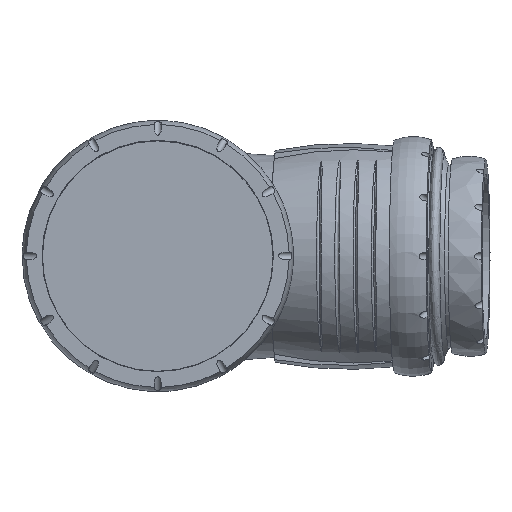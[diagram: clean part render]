
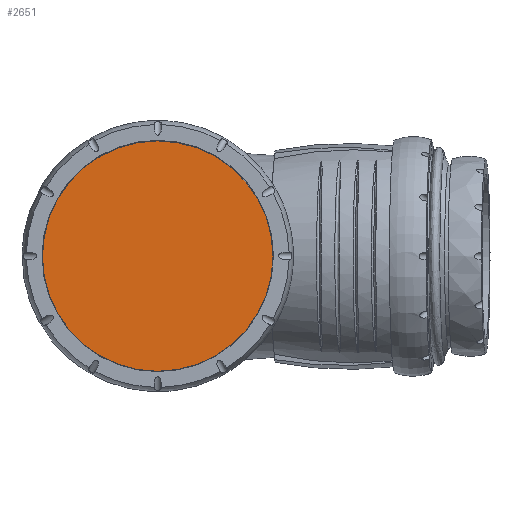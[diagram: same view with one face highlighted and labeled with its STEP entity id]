
A CAD part, top view. The second image highlights one B-rep face of the part: STEP entity #2651.
In plain terms, the highlighted planar face has unit normal (0, 0, 1).
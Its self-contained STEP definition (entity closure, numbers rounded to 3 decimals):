
#380=PLANE('',#2840);
#504=FACE_OUTER_BOUND('',#669,.T.);
#669=EDGE_LOOP('',(#1692));
#878=CIRCLE('',#2841,63.);
#1015=VERTEX_POINT('',#4057);
#1293=EDGE_CURVE('',#1015,#1015,#878,.T.);
#1692=ORIENTED_EDGE('',*,*,#1293,.T.);
#2651=ADVANCED_FACE('',(#504),#380,.T.);
#2840=AXIS2_PLACEMENT_3D('',#4056,#3161,#3162);
#2841=AXIS2_PLACEMENT_3D('',#4058,#3163,#3164);
#3161=DIRECTION('center_axis',(0.,0.,
1.));
#3162=DIRECTION('ref_axis',(0.,1.,0.));
#3163=DIRECTION('center_axis',(0.,0.,
1.));
#3164=DIRECTION('ref_axis',(0.,1.,0.));
#4056=CARTESIAN_POINT('Origin',(0.,0.,
233.));
#4057=CARTESIAN_POINT('',(-63.,0.,233.));
#4058=CARTESIAN_POINT('Origin',(0.,0.,
233.));
